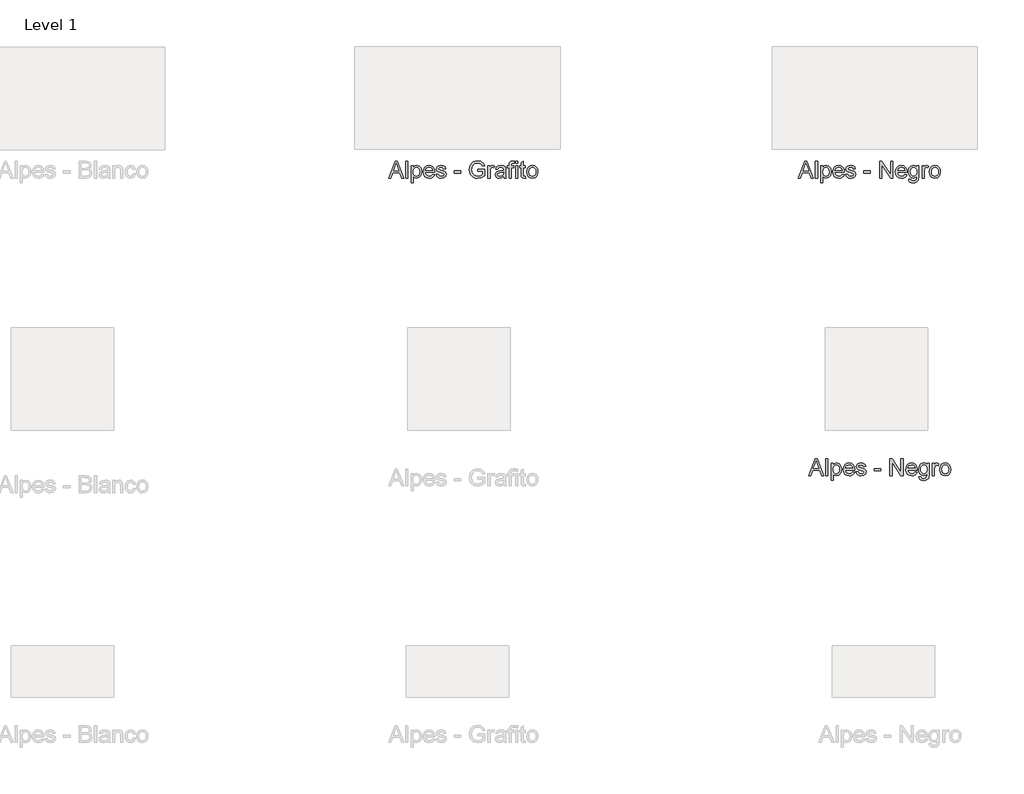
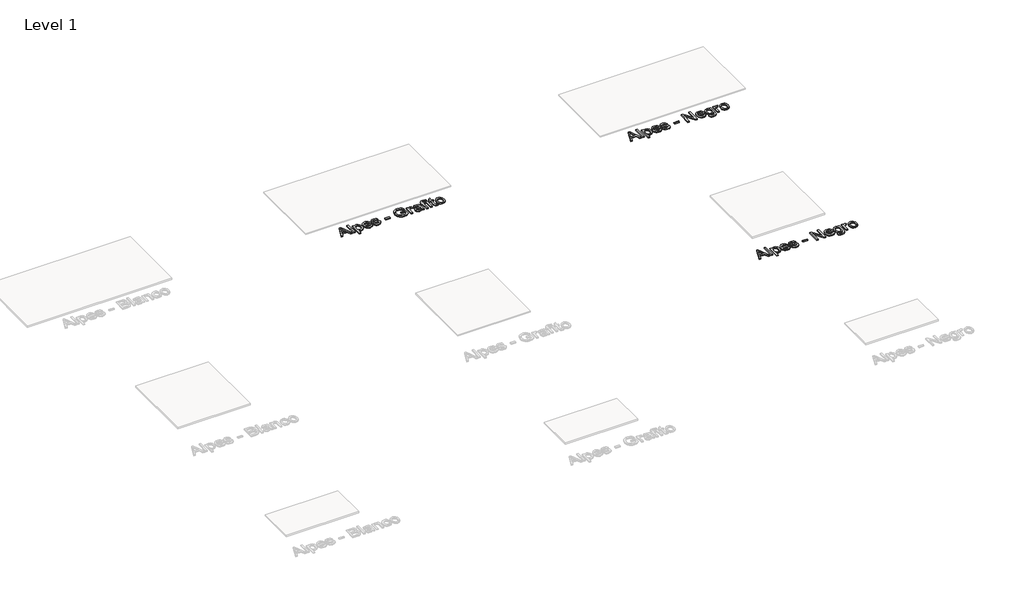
# One storey, part 3 of 3: 3 proxies.
"""IFC4 building model written with IfcOpenShell, lengths in millimetres."""

from ifc_helpers import new_model, si_unit, origin, origin_with_axes, place, context, project, spatial, polyline, outline, extrude, element, save

model = new_model("IFC4")

# Units and contexts
model_context = context("Model", 3, world=origin())
ifc_project = project(units=[si_unit("LENGTHUNIT", "METRE", prefix="MILLI")], contexts=[model_context])

# Site, building, storey
site = spatial("IfcSite", under=ifc_project)
building = spatial("IfcBuilding", under=site)
storey = spatial("IfcBuildingStorey", under=building, Name="Level 1", Elevation=0.0)

# Proxies
placement = place(None, origin())
element("IfcBuildingElementProxy", 1, Name="24\" Arial", ObjectType="24\" Arial", at=placement, inside=storey, context=model_context, shape_type="SweptSolid", body=[
    extrude(outline(polyline([(-2603.4306518, 3187.5589473), (-2564.1277672, 3286.0204858), (-2553.6469979, 3286.0204858), (-2514.3441133, 3187.5589473), (-2527.348921, 3187.5589473), (-2538.6229595, 3218.3281781), (-2579.1758441, 3218.3281781), (-2590.4258441, 3187.5589473), (-2603.4306518, 3187.5589473)]), holes=[polyline([(-2574.6566133, 3230.6358704), (-2543.1181518, 3230.6358704), (-2551.9883441, 3254.8426012), (-2558.8873826, 3273.7127935), (-2565.0171903, 3256.9579858), (-2574.6566133, 3230.6358704)])]), origin_with_axes(), (0.0, 0.0, 1.0), 8.0),
    extrude(outline(polyline([(-2502.7335364, 3187.5589473), (-2502.7335364, 3286.0204858), (-2490.4258441, 3286.0204858), (-2490.4258441, 3187.5589473), (-2502.7335364, 3187.5589473)])), origin_with_axes(), (0.0, 0.0, 1.0), 8.0),
    extrude(outline(polyline([(-2471.9643056, 3159.8666396), (-2471.9643056, 3259.8666396), (-2459.6566133, 3259.8666396), (-2459.6566133, 3247.7993319), (-2451.1469979, 3258.0036589), (-2439.6566133, 3261.4051012), (-2424.0556518, 3256.6454858), (-2413.8633441, 3243.2320242), (-2410.4258441, 3224.2656781), (-2414.3080556, 3204.3257742), (-2425.5820941, 3190.7440435), (-2441.1469979, 3186.0204858), (-2451.8561326, 3189.1815435), (-2459.6566133, 3197.1743319), (-2459.6566133, 3159.8666396), (-2471.9643056, 3159.8666396)]), holes=[polyline([(-2459.6566133, 3223.1358704), (-2458.3254835, 3212.1022165), (-2454.3320941, 3204.3858704), (-2448.4396662, 3199.8426012), (-2441.411421, 3198.3281781), (-2434.2689931, 3199.8966877), (-2428.2263249, 3204.6022165), (-2424.1067335, 3212.6010146), (-2422.7335364, 3224.0493319), (-2424.0736806, 3235.0228896), (-2428.0941133, 3242.8474089), (-2433.9775268, 3247.5349089), (-2440.9066133, 3249.0974089), (-2447.8627431, 3247.4357502), (-2453.9715172, 3242.4507742), (-2458.2353393, 3234.298731), (-2459.6566133, 3223.1358704)])]), origin_with_axes(), (0.0, 0.0, 1.0), 8.0),
    extrude(outline(polyline([(-2345.9546903, 3209.0974089), (-2333.8873826, 3207.5589473), (-2338.2353393, 3198.4663992), (-2345.1734403, 3191.6695242), (-2354.5454354, 3187.4327454), (-2366.1950749, 3186.0204858), (-2380.6361806, 3188.4573848), (-2391.7479595, 3195.7680819), (-2398.833296, 3207.4778175), (-2401.1950749, 3223.1118319), (-2398.8092576, 3239.2716877), (-2391.6518056, 3251.3570242), (-2380.6902672, 3258.8930819), (-2366.8921903, 3261.4051012), (-2353.5238008, 3258.8990915), (-2342.8417095, 3251.3810627), (-2335.8375028, 3239.3197646), (-2333.5027672, 3223.1839473), (-2333.5748826, 3219.8666396), (-2388.8873826, 3219.8666396), (-2386.7569739, 3210.6538992), (-2381.8080556, 3203.8810627), (-2365.9546903, 3198.3281781), (-2353.8873826, 3200.9002935), (-2345.9546903, 3209.0974089)]), holes=[polyline([(-2388.8873826, 3232.1743319), (-2345.8104595, 3232.1743319), (-2350.7383441, 3243.3281781), (-2357.9138249, 3247.6551012), (-2366.9402672, 3249.0974089), (-2382.0965172, 3244.4940435), (-2388.8873826, 3232.1743319)])]), origin_with_axes(), (0.0, 0.0, 1.0), 8.0),
    extrude(outline(polyline([(-2325.8104595, 3209.0974089), (-2313.5027672, 3210.6358704), (-2307.8056518, 3201.501255), (-2294.7527672, 3198.3281781), (-2282.2046903, 3201.2368319), (-2278.1181518, 3208.063755), (-2282.2287287, 3213.5926012), (-2294.8969979, 3217.1022165), (-2313.4306518, 3223.1238512), (-2321.5195941, 3230.1551012), (-2324.2719979, 3240.0829858), (-2322.0604595, 3249.2536589), (-2316.0268056, 3256.2608704), (-2308.2022864, 3259.9026973), (-2297.6133441, 3261.4051012), (-2282.6373826, 3258.9892358), (-2273.1181518, 3252.4507742), (-2268.8873826, 3241.4051012), (-2281.1950749, 3239.8666396), (-2285.8224787, 3246.657505), (-2296.6518056, 3249.0974089), (-2308.4306518, 3246.7656781), (-2311.9643056, 3241.3329858), (-2310.4979595, 3237.751255), (-2305.9066133, 3235.0349089), (-2295.3056518, 3232.4147165), (-2277.2407479, 3226.6214473), (-2268.8513249, 3220.0589473), (-2265.8104595, 3209.3618319), (-2269.380171, 3197.5829858), (-2279.6806518, 3189.0373127), (-2294.9210364, 3186.0204858), (-2307.3308922, 3187.4748127), (-2316.3873826, 3191.8377935), (-2322.4330556, 3199.0613512), (-2325.8104595, 3209.0974089)])), origin_with_axes(), (0.0, 0.0, 1.0), 8.0),
    extrude(outline(polyline([(-2219.6566133, 3216.7897165), (-2219.6566133, 3229.0974089), (-2181.1950749, 3229.0974089), (-2181.1950749, 3216.7897165), (-2219.6566133, 3216.7897165)])), origin_with_axes(), (0.0, 0.0, 1.0), 8.0),
    extrude(outline(polyline([(-2081.1950749, 3226.0204858), (-2081.1950749, 3238.3281781), (-2041.1950749, 3238.3281781), (-2041.1950749, 3201.5252935), (-2060.942671, 3189.9147165), (-2081.8200749, 3186.0204858), (-2095.6271662, 3187.5679617), (-2108.1061326, 3192.2103896), (-2118.4727191, 3199.7855098), (-2125.942671, 3210.1310627), (-2130.458897, 3222.5409185), (-2131.9643056, 3236.3089473), (-2125.9667095, 3263.0757742), (-2118.6560124, 3273.8960867), (-2108.7191133, 3281.5252935), (-2096.6157479, 3286.0505339), (-2082.8056518, 3287.5589473), (-2063.5508441, 3284.0613512), (-2050.0532479, 3274.3257742), (-2042.6133441, 3258.0397165), (-2053.9594979, 3254.8426012), (-2059.5724787, 3266.2248127), (-2069.1638249, 3272.7873127), (-2082.9979595, 3275.251255), (-2098.755171, 3272.595005), (-2109.4763249, 3265.6238512), (-2115.8104595, 3256.1406781), (-2119.6566133, 3236.813755), (-2115.0292095, 3215.3594281), (-2101.567671, 3202.5228896), (-2082.8056518, 3198.3281781), (-2065.9667095, 3201.4892358), (-2053.5027672, 3208.2320242), (-2053.5027672, 3226.0204858), (-2081.1950749, 3226.0204858)])), origin_with_axes(), (0.0, 0.0, 1.0), 8.0),
    extrude(outline(polyline([(-2022.7335364, 3187.5589473), (-2022.7335364, 3259.8666396), (-2011.9643056, 3259.8666396), (-2011.9643056, 3249.1695242), (-2004.3200749, 3259.0252935), (-1996.6277672, 3261.4051012), (-1984.2719979, 3257.6070242), (-1988.3825749, 3246.5733704), (-1997.036421, 3249.0974089), (-2003.9955556, 3246.6695242), (-2008.4306518, 3239.938755), (-2010.4258441, 3225.563755), (-2010.4258441, 3187.5589473), (-2022.7335364, 3187.5589473)])), origin_with_axes(), (0.0, 0.0, 1.0), 8.0),
    extrude(outline(polyline([(-1930.4258441, 3196.7897165), (-1942.3609403, 3188.4483704), (-1955.5460364, 3186.0204858), (-1965.8314931, 3187.4808223), (-1973.4186326, 3191.8618319), (-1978.0971181, 3198.5144762), (-1979.6566133, 3206.7897165), (-1977.3008441, 3216.5252935), (-1971.1109403, 3223.5926012), (-1962.4931518, 3227.6310627), (-1951.8441133, 3229.4820242), (-1930.4979595, 3233.7127935), (-1930.4258441, 3236.4531781), (-1933.8152672, 3245.5397165), (-1947.4210364, 3249.0974089), (-1959.8729595, 3246.7296204), (-1965.8104595, 3238.3281781), (-1978.1181518, 3239.8666396), (-1972.7936326, 3251.8858704), (-1962.0724787, 3258.9291396), (-1945.8344979, 3261.4051012), (-1930.9186326, 3259.2176012), (-1922.4931518, 3253.7248127), (-1918.7191133, 3245.3714473), (-1918.1181518, 3234.6022165), (-1918.1181518, 3219.2897165), (-1917.4931518, 3197.907505), (-1915.0412287, 3187.5589473), (-1927.348921, 3187.5589473), (-1930.4258441, 3196.7897165)]), holes=[polyline([(-1930.4258441, 3221.4051012), (-1950.2816133, 3217.6310627), (-1960.8705556, 3215.6358704), (-1965.6662287, 3212.3906781), (-1967.348921, 3207.6551012), (-1963.6830556, 3200.9964473), (-1952.9258441, 3198.3281781), (-1940.473921, 3201.2728896), (-1932.4450749, 3208.4002935), (-1930.4979595, 3217.9195242), (-1930.4258441, 3221.4051012)])]), origin_with_axes(), (0.0, 0.0, 1.0), 8.0),
    extrude(outline(polyline([(-1898.1181518, 3187.5589473), (-1898.1181518, 3247.5589473), (-1908.8873826, 3247.5589473), (-1908.8873826, 3259.8666396), (-1898.1181518, 3259.8666396), (-1898.1181518, 3267.1502935), (-1896.8200749, 3277.4147165), (-1890.5219979, 3284.7464473), (-1878.1181518, 3287.5589473), (-1866.8921903, 3286.2127935), (-1868.6950749, 3274.6743319), (-1875.786421, 3275.251255), (-1883.5388249, 3273.2079858), (-1885.8104595, 3265.5877935), (-1885.8104595, 3259.8666396), (-1871.9643056, 3259.8666396), (-1871.9643056, 3247.5589473), (-1885.8104595, 3247.5589473), (-1885.8104595, 3187.5589473), (-1898.1181518, 3187.5589473)])), origin_with_axes(), (0.0, 0.0, 1.0), 8.0),
    extrude(outline(polyline([(-1861.1950749, 3273.7127935), (-1861.1950749, 3286.0204858), (-1848.8873826, 3286.0204858), (-1848.8873826, 3273.7127935), (-1861.1950749, 3273.7127935)])), origin_with_axes(), (0.0, 0.0, 1.0), 8.0),
    extrude(outline(polyline([(-1861.1950749, 3187.5589473), (-1861.1950749, 3259.8666396), (-1848.8873826, 3259.8666396), (-1848.8873826, 3187.5589473), (-1861.1950749, 3187.5589473)])), origin_with_axes(), (0.0, 0.0, 1.0), 8.0),
    extrude(outline(polyline([(-1804.2719979, 3197.8233704), (-1802.7335364, 3187.1983704), (-1811.9402672, 3186.0204858), (-1822.2527672, 3188.063755), (-1827.3969979, 3193.4243319), (-1828.8873826, 3207.3906781), (-1828.8873826, 3247.5589473), (-1838.1181518, 3247.5589473), (-1838.1181518, 3259.8666396), (-1828.8873826, 3259.8666396), (-1828.8873826, 3277.438755), (-1816.5796903, 3284.6743319), (-1816.5796903, 3259.8666396), (-1804.2719979, 3259.8666396), (-1804.2719979, 3247.5589473), (-1816.5796903, 3247.5589473), (-1816.5796903, 3207.751255), (-1815.9306518, 3201.4051012), (-1813.8272864, 3199.157505), (-1809.6325749, 3198.3281781), (-1804.2719979, 3197.8233704)])), origin_with_axes(), (0.0, 0.0, 1.0), 8.0),
    extrude(outline(polyline([(-1795.0412287, 3223.7127935), (-1792.3789691, 3241.1466877), (-1784.3921903, 3253.4002935), (-1774.5244018, 3259.4038992), (-1762.7094979, 3261.4051012), (-1749.7798104, 3258.9682021), (-1739.4522864, 3251.657505), (-1732.6824547, 3240.0499329), (-1730.4258441, 3224.7224089), (-1734.4162287, 3202.8233704), (-1746.0388249, 3190.4315435), (-1762.7094979, 3186.0204858), (-1775.7954354, 3188.4483704), (-1786.1109403, 3195.7320242), (-1792.8086566, 3207.5829858), (-1795.0412287, 3223.7127935)]), holes=[polyline([(-1782.7335364, 3223.7368319), (-1781.3092576, 3212.5980098), (-1777.036421, 3204.6623127), (-1770.6061326, 3199.9117117), (-1762.7094979, 3198.3281781), (-1754.848921, 3199.9207262), (-1748.4306518, 3204.6983704), (-1744.1578153, 3212.7392358), (-1742.7335364, 3224.1214473), (-1744.1668297, 3234.9357502), (-1748.4667095, 3242.7632742), (-1754.8939931, 3247.5138752), (-1762.7094979, 3249.0974089), (-1770.6061326, 3247.5198848), (-1777.036421, 3242.7873127), (-1781.3092576, 3234.8696444), (-1782.7335364, 3223.7368319)])]), origin_with_axes(), (0.0, 0.0, 1.0), 8.0),
])
element("IfcBuildingElementProxy", 2, Name="24\" Arial", ObjectType="24\" Arial", at=placement, inside=storey, context=model_context, shape_type="SweptSolid", body=[
    extrude(outline(polyline([(-208.4306518, 3187.5589473), (-169.1277672, 3286.0204858), (-158.6469979, 3286.0204858), (-119.3441133, 3187.5589473), (-132.348921, 3187.5589473), (-143.6229595, 3218.3281781), (-184.1758441, 3218.3281781), (-195.4258441, 3187.5589473), (-208.4306518, 3187.5589473)]), holes=[polyline([(-179.6566133, 3230.6358704), (-148.1181518, 3230.6358704), (-156.9883441, 3254.8426012), (-163.8873826, 3273.7127935), (-170.0171903, 3256.9579858), (-179.6566133, 3230.6358704)])]), origin_with_axes(), (0.0, 0.0, 1.0), 8.0),
    extrude(outline(polyline([(-107.7335364, 3187.5589473), (-107.7335364, 3286.0204858), (-95.4258441, 3286.0204858), (-95.4258441, 3187.5589473), (-107.7335364, 3187.5589473)])), origin_with_axes(), (0.0, 0.0, 1.0), 8.0),
    extrude(outline(polyline([(-76.9643056, 3159.8666396), (-76.9643056, 3259.8666396), (-64.6566133, 3259.8666396), (-64.6566133, 3247.7993319), (-56.1469979, 3258.0036589), (-44.6566133, 3261.4051012), (-29.0556518, 3256.6454858), (-18.8633441, 3243.2320242), (-15.4258441, 3224.2656781), (-19.3080556, 3204.3257742), (-30.5820941, 3190.7440435), (-46.1469979, 3186.0204858), (-56.8561326, 3189.1815435), (-64.6566133, 3197.1743319), (-64.6566133, 3159.8666396), (-76.9643056, 3159.8666396)]), holes=[polyline([(-64.6566133, 3223.1358704), (-63.3254835, 3212.1022165), (-59.3320941, 3204.3858704), (-53.4396662, 3199.8426012), (-46.411421, 3198.3281781), (-39.2689931, 3199.8966877), (-33.2263249, 3204.6022165), (-29.1067335, 3212.6010146), (-27.7335364, 3224.0493319), (-29.0736806, 3235.0228896), (-33.0941133, 3242.8474089), (-38.9775268, 3247.5349089), (-45.9066133, 3249.0974089), (-52.8627431, 3247.4357502), (-58.9715172, 3242.4507742), (-63.2353393, 3234.298731), (-64.6566133, 3223.1358704)])]), origin_with_axes(), (0.0, 0.0, 1.0), 8.0),
    extrude(outline(polyline([(49.0453097, 3209.0974089), (61.1126174, 3207.5589473), (56.7646607, 3198.4663992), (49.8265597, 3191.6695242), (40.4545646, 3187.4327454), (28.8049251, 3186.0204858), (14.3638194, 3188.4573848), (3.2520405, 3195.7680819), (-3.833296, 3207.4778175), (-6.1950749, 3223.1118319), (-3.8092576, 3239.2716877), (3.3481944, 3251.3570242), (14.3097328, 3258.8930819), (28.1078097, 3261.4051012), (41.4761992, 3258.8990915), (52.1582905, 3251.3810627), (59.1624972, 3239.3197646), (61.4972328, 3223.1839473), (61.4251174, 3219.8666396), (6.1126174, 3219.8666396), (8.2430261, 3210.6538992), (13.1919444, 3203.8810627), (29.0453097, 3198.3281781), (41.1126174, 3200.9002935), (49.0453097, 3209.0974089)]), holes=[polyline([(6.1126174, 3232.1743319), (49.1895405, 3232.1743319), (44.2616559, 3243.3281781), (37.0861751, 3247.6551012), (28.0597328, 3249.0974089), (12.9034828, 3244.4940435), (6.1126174, 3232.1743319)])]), origin_with_axes(), (0.0, 0.0, 1.0), 8.0),
    extrude(outline(polyline([(69.1895405, 3209.0974089), (81.4972328, 3210.6358704), (87.1943482, 3201.501255), (100.2472328, 3198.3281781), (112.7953097, 3201.2368319), (116.8818482, 3208.063755), (112.7712713, 3213.5926012), (100.1030021, 3217.1022165), (81.5693482, 3223.1238512), (73.4804059, 3230.1551012), (70.7280021, 3240.0829858), (72.9395405, 3249.2536589), (78.9731944, 3256.2608704), (86.7977136, 3259.9026973), (97.3866559, 3261.4051012), (112.3626174, 3258.9892358), (121.8818482, 3252.4507742), (126.1126174, 3241.4051012), (113.8049251, 3239.8666396), (109.1775213, 3246.657505), (98.3481944, 3249.0974089), (86.5693482, 3246.7656781), (83.0356944, 3241.3329858), (84.5020405, 3237.751255), (89.0933867, 3235.0349089), (99.6943482, 3232.4147165), (117.7592521, 3226.6214473), (126.1486751, 3220.0589473), (129.1895405, 3209.3618319), (125.619829, 3197.5829858), (115.3193482, 3189.0373127), (100.0789636, 3186.0204858), (87.6691078, 3187.4748127), (78.6126174, 3191.8377935), (72.5669444, 3199.0613512), (69.1895405, 3209.0974089)])), origin_with_axes(), (0.0, 0.0, 1.0), 8.0),
    extrude(outline(polyline([(175.3433867, 3216.7897165), (175.3433867, 3229.0974089), (213.8049251, 3229.0974089), (213.8049251, 3216.7897165), (175.3433867, 3216.7897165)])), origin_with_axes(), (0.0, 0.0, 1.0), 8.0),
    extrude(outline(polyline([(267.651079, 3187.5589473), (267.651079, 3286.0204858), (280.8241559, 3286.0204858), (332.2664636, 3208.0156781), (332.2664636, 3286.0204858), (344.5741559, 3286.0204858), (344.5741559, 3187.5589473), (331.401079, 3187.5589473), (279.9587713, 3265.5877935), (279.9587713, 3187.5589473), (267.651079, 3187.5589473)])), origin_with_axes(), (0.0, 0.0, 1.0), 8.0),
    extrude(outline(polyline([(415.1991559, 3209.0974089), (427.2664636, 3207.5589473), (422.9185069, 3198.4663992), (415.9804059, 3191.6695242), (406.6084107, 3187.4327454), (394.9587713, 3186.0204858), (380.5176655, 3188.4573848), (369.4058867, 3195.7680819), (362.3205501, 3207.4778175), (359.9587713, 3223.1118319), (362.3445886, 3239.2716877), (369.5020405, 3251.3570242), (380.463579, 3258.8930819), (394.2616559, 3261.4051012), (407.6300453, 3258.8990915), (418.3121367, 3251.3810627), (425.3163434, 3239.3197646), (427.651079, 3223.1839473), (427.5789636, 3219.8666396), (372.2664636, 3219.8666396), (374.3968722, 3210.6538992), (379.3457905, 3203.8810627), (395.1991559, 3198.3281781), (407.2664636, 3200.9002935), (415.1991559, 3209.0974089)]), holes=[polyline([(372.2664636, 3232.1743319), (415.3433867, 3232.1743319), (410.4155021, 3243.3281781), (403.2400213, 3247.6551012), (394.213579, 3249.0974089), (379.057329, 3244.4940435), (372.2664636, 3232.1743319)])]), origin_with_axes(), (0.0, 0.0, 1.0), 8.0),
    extrude(outline(polyline([(436.8818482, 3181.4051012), (449.1895405, 3179.8666396), (453.1799251, 3173.376255), (465.1270405, 3170.6358704), (477.7231944, 3173.7368319), (483.7328097, 3182.438755), (484.5741559, 3196.7897165), (475.9082905, 3189.8666396), (465.3433867, 3187.5589473), (452.6540838, 3190.2452454), (443.1919444, 3198.3041396), (437.3055261, 3210.1190435), (435.3433867, 3224.0733704), (438.8650213, 3243.1478896), (449.057329, 3256.6454858), (464.7424251, 3261.4051012), (475.7219924, 3258.7127935), (484.5741559, 3250.6358704), (484.5741559, 3259.8666396), (496.8818482, 3259.8666396), (496.8818482, 3197.438755), (493.5164636, 3173.532505), (482.8554059, 3162.4147165), (464.8866559, 3158.3281781), (453.4353338, 3159.767481), (444.4179059, 3164.0853896), (438.6336511, 3171.2939233), (436.8818482, 3181.4051012)]), holes=[polyline([(447.651079, 3224.9147165), (448.9641799, 3213.625654), (452.9034828, 3205.8642358), (458.8259588, 3201.3660387), (466.088579, 3199.8666396), (473.2971126, 3201.3570242), (479.2496367, 3205.8281781), (483.2430261, 3213.4904377), (484.5741559, 3224.5541396), (483.2039636, 3235.2242117), (479.0933867, 3242.907505), (473.0537232, 3247.5499329), (465.8962713, 3249.0974089), (458.8680261, 3247.5739714), (452.9755982, 3243.0036589), (448.9822088, 3235.4345483), (447.651079, 3224.9147165)])]), origin_with_axes(), (0.0, 0.0, 1.0), 8.0),
    extrude(outline(polyline([(515.3433867, 3187.5589473), (515.3433867, 3259.8666396), (526.1126174, 3259.8666396), (526.1126174, 3249.1695242), (533.7568482, 3259.0252935), (541.4491559, 3261.4051012), (553.8049251, 3257.6070242), (549.6943482, 3246.5733704), (541.0405021, 3249.0974089), (534.0813674, 3246.6695242), (529.6462713, 3239.938755), (527.651079, 3225.563755), (527.651079, 3187.5589473), (515.3433867, 3187.5589473)])), origin_with_axes(), (0.0, 0.0, 1.0), 8.0),
    extrude(outline(polyline([(558.4203097, 3223.7127935), (561.0825694, 3241.1466877), (569.0693482, 3253.4002935), (578.9371367, 3259.4038992), (590.7520405, 3261.4051012), (603.681728, 3258.9682021), (614.0092521, 3251.657505), (620.7790838, 3240.0499329), (623.0356944, 3224.7224089), (619.0453097, 3202.8233704), (607.4227136, 3190.4315435), (590.7520405, 3186.0204858), (577.666103, 3188.4483704), (567.3505982, 3195.7320242), (560.6528819, 3207.5829858), (558.4203097, 3223.7127935)]), holes=[polyline([(570.7280021, 3223.7368319), (572.1522809, 3212.5980098), (576.4251174, 3204.6623127), (582.8554059, 3199.9117117), (590.7520405, 3198.3281781), (598.6126174, 3199.9207262), (605.0308867, 3204.6983704), (609.3037232, 3212.7392358), (610.7280021, 3224.1214473), (609.2947088, 3234.9357502), (604.994829, 3242.7632742), (598.5675453, 3247.5138752), (590.7520405, 3249.0974089), (582.8554059, 3247.5198848), (576.4251174, 3242.7873127), (572.1522809, 3234.8696444), (570.7280021, 3223.7368319)])]), origin_with_axes(), (0.0, 0.0, 1.0), 8.0),
])
element("IfcBuildingElementProxy", 3, Name="24\" Arial", ObjectType="24\" Arial", at=placement, inside=storey, context=model_context, shape_type="SweptSolid", body=[
    extrude(outline(polyline([(-148.4306518, 1447.5589473), (-109.1277672, 1546.0204858), (-98.6469979, 1546.0204858), (-59.3441133, 1447.5589473), (-72.348921, 1447.5589473), (-83.6229595, 1478.3281781), (-124.1758441, 1478.3281781), (-135.4258441, 1447.5589473), (-148.4306518, 1447.5589473)]), holes=[polyline([(-119.6566133, 1490.6358704), (-88.1181518, 1490.6358704), (-96.9883441, 1514.8426012), (-103.8873826, 1533.7127935), (-110.0171903, 1516.9579858), (-119.6566133, 1490.6358704)])]), origin_with_axes(), (0.0, 0.0, 1.0), 8.0),
    extrude(outline(polyline([(-47.7335364, 1447.5589473), (-47.7335364, 1546.0204858), (-35.4258441, 1546.0204858), (-35.4258441, 1447.5589473), (-47.7335364, 1447.5589473)])), origin_with_axes(), (0.0, 0.0, 1.0), 8.0),
    extrude(outline(polyline([(-16.9643056, 1419.8666396), (-16.9643056, 1519.8666396), (-4.6566133, 1519.8666396), (-4.6566133, 1507.7993319), (3.8530021, 1518.0036589), (15.3433867, 1521.4051012), (30.9443482, 1516.6454858), (41.1366559, 1503.2320242), (44.5741559, 1484.2656781), (40.6919444, 1464.3257742), (29.4179059, 1450.7440435), (13.8530021, 1446.0204858), (3.1438674, 1449.1815435), (-4.6566133, 1457.1743319), (-4.6566133, 1419.8666396), (-16.9643056, 1419.8666396)]), holes=[polyline([(-4.6566133, 1483.1358704), (-3.3254835, 1472.1022165), (0.6679059, 1464.3858704), (6.5603338, 1459.8426012), (13.588579, 1458.3281781), (20.7310069, 1459.8966877), (26.7736751, 1464.6022165), (30.8932665, 1472.6010146), (32.2664636, 1484.0493319), (30.9263194, 1495.0228896), (26.9058867, 1502.8474089), (21.0224732, 1507.5349089), (14.0933867, 1509.0974089), (7.1372569, 1507.4357502), (1.0284828, 1502.4507742), (-3.2353393, 1494.298731), (-4.6566133, 1483.1358704)])]), origin_with_axes(), (0.0, 0.0, 1.0), 8.0),
    extrude(outline(polyline([(109.0453097, 1469.0974089), (121.1126174, 1467.5589473), (116.7646607, 1458.4663992), (109.8265597, 1451.6695242), (100.4545646, 1447.4327454), (88.8049251, 1446.0204858), (74.3638194, 1448.4573848), (63.2520405, 1455.7680819), (56.166704, 1467.4778175), (53.8049251, 1483.1118319), (56.1907424, 1499.2716877), (63.3481944, 1511.3570242), (74.3097328, 1518.8930819), (88.1078097, 1521.4051012), (101.4761992, 1518.8990915), (112.1582905, 1511.3810627), (119.1624972, 1499.3197646), (121.4972328, 1483.1839473), (121.4251174, 1479.8666396), (66.1126174, 1479.8666396), (68.2430261, 1470.6538992), (73.1919444, 1463.8810627), (89.0453097, 1458.3281781), (101.1126174, 1460.9002935), (109.0453097, 1469.0974089)]), holes=[polyline([(66.1126174, 1492.1743319), (109.1895405, 1492.1743319), (104.2616559, 1503.3281781), (97.0861751, 1507.6551012), (88.0597328, 1509.0974089), (72.9034828, 1504.4940435), (66.1126174, 1492.1743319)])]), origin_with_axes(), (0.0, 0.0, 1.0), 8.0),
    extrude(outline(polyline([(129.1895405, 1469.0974089), (141.4972328, 1470.6358704), (147.1943482, 1461.501255), (160.2472328, 1458.3281781), (172.7953097, 1461.2368319), (176.8818482, 1468.063755), (172.7712713, 1473.5926012), (160.1030021, 1477.1022165), (141.5693482, 1483.1238512), (133.4804059, 1490.1551012), (130.7280021, 1500.0829858), (132.9395405, 1509.2536589), (138.9731944, 1516.2608704), (146.7977136, 1519.9026973), (157.3866559, 1521.4051012), (172.3626174, 1518.9892358), (181.8818482, 1512.4507742), (186.1126174, 1501.4051012), (173.8049251, 1499.8666396), (169.1775213, 1506.657505), (158.3481944, 1509.0974089), (146.5693482, 1506.7656781), (143.0356944, 1501.3329858), (144.5020405, 1497.751255), (149.0933867, 1495.0349089), (159.6943482, 1492.4147165), (177.7592521, 1486.6214473), (186.1486751, 1480.0589473), (189.1895405, 1469.3618319), (185.619829, 1457.5829858), (175.3193482, 1449.0373127), (160.0789636, 1446.0204858), (147.6691078, 1447.4748127), (138.6126174, 1451.8377935), (132.5669444, 1459.0613512), (129.1895405, 1469.0974089)])), origin_with_axes(), (0.0, 0.0, 1.0), 8.0),
    extrude(outline(polyline([(235.3433867, 1476.7897165), (235.3433867, 1489.0974089), (273.8049251, 1489.0974089), (273.8049251, 1476.7897165), (235.3433867, 1476.7897165)])), origin_with_axes(), (0.0, 0.0, 1.0), 8.0),
    extrude(outline(polyline([(327.651079, 1447.5589473), (327.651079, 1546.0204858), (340.8241559, 1546.0204858), (392.2664636, 1468.0156781), (392.2664636, 1546.0204858), (404.5741559, 1546.0204858), (404.5741559, 1447.5589473), (391.401079, 1447.5589473), (339.9587713, 1525.5877935), (339.9587713, 1447.5589473), (327.651079, 1447.5589473)])), origin_with_axes(), (0.0, 0.0, 1.0), 8.0),
    extrude(outline(polyline([(475.1991559, 1469.0974089), (487.2664636, 1467.5589473), (482.9185069, 1458.4663992), (475.9804059, 1451.6695242), (466.6084107, 1447.4327454), (454.9587713, 1446.0204858), (440.5176655, 1448.4573848), (429.4058867, 1455.7680819), (422.3205501, 1467.4778175), (419.9587713, 1483.1118319), (422.3445886, 1499.2716877), (429.5020405, 1511.3570242), (440.463579, 1518.8930819), (454.2616559, 1521.4051012), (467.6300453, 1518.8990915), (478.3121367, 1511.3810627), (485.3163434, 1499.3197646), (487.651079, 1483.1839473), (487.5789636, 1479.8666396), (432.2664636, 1479.8666396), (434.3968722, 1470.6538992), (439.3457905, 1463.8810627), (455.1991559, 1458.3281781), (467.2664636, 1460.9002935), (475.1991559, 1469.0974089)]), holes=[polyline([(432.2664636, 1492.1743319), (475.3433867, 1492.1743319), (470.4155021, 1503.3281781), (463.2400213, 1507.6551012), (454.213579, 1509.0974089), (439.057329, 1504.4940435), (432.2664636, 1492.1743319)])]), origin_with_axes(), (0.0, 0.0, 1.0), 8.0),
    extrude(outline(polyline([(496.8818482, 1441.4051012), (509.1895405, 1439.8666396), (513.1799251, 1433.376255), (525.1270405, 1430.6358704), (537.7231944, 1433.7368319), (543.7328097, 1442.438755), (544.5741559, 1456.7897165), (535.9082905, 1449.8666396), (525.3433867, 1447.5589473), (512.6540838, 1450.2452454), (503.1919444, 1458.3041396), (497.3055261, 1470.1190435), (495.3433867, 1484.0733704), (498.8650213, 1503.1478896), (509.057329, 1516.6454858), (524.7424251, 1521.4051012), (535.7219924, 1518.7127935), (544.5741559, 1510.6358704), (544.5741559, 1519.8666396), (556.8818482, 1519.8666396), (556.8818482, 1457.438755), (553.5164636, 1433.532505), (542.8554059, 1422.4147165), (524.8866559, 1418.3281781), (513.4353338, 1419.767481), (504.4179059, 1424.0853896), (498.6336511, 1431.2939233), (496.8818482, 1441.4051012)]), holes=[polyline([(507.651079, 1484.9147165), (508.9641799, 1473.625654), (512.9034828, 1465.8642358), (518.8259588, 1461.3660387), (526.088579, 1459.8666396), (533.2971126, 1461.3570242), (539.2496367, 1465.8281781), (543.2430261, 1473.4904377), (544.5741559, 1484.5541396), (543.2039636, 1495.2242117), (539.0933867, 1502.907505), (533.0537232, 1507.5499329), (525.8962713, 1509.0974089), (518.8680261, 1507.5739714), (512.9755982, 1503.0036589), (508.9822088, 1495.4345483), (507.651079, 1484.9147165)])]), origin_with_axes(), (0.0, 0.0, 1.0), 8.0),
    extrude(outline(polyline([(575.3433867, 1447.5589473), (575.3433867, 1519.8666396), (586.1126174, 1519.8666396), (586.1126174, 1509.1695242), (593.7568482, 1519.0252935), (601.4491559, 1521.4051012), (613.8049251, 1517.6070242), (609.6943482, 1506.5733704), (601.0405021, 1509.0974089), (594.0813674, 1506.6695242), (589.6462713, 1499.938755), (587.651079, 1485.563755), (587.651079, 1447.5589473), (575.3433867, 1447.5589473)])), origin_with_axes(), (0.0, 0.0, 1.0), 8.0),
    extrude(outline(polyline([(618.4203097, 1483.7127935), (621.0825694, 1501.1466877), (629.0693482, 1513.4002935), (638.9371367, 1519.4038992), (650.7520405, 1521.4051012), (663.681728, 1518.9682021), (674.0092521, 1511.657505), (680.7790838, 1500.0499329), (683.0356944, 1484.7224089), (679.0453097, 1462.8233704), (667.4227136, 1450.4315435), (650.7520405, 1446.0204858), (637.666103, 1448.4483704), (627.3505982, 1455.7320242), (620.6528819, 1467.5829858), (618.4203097, 1483.7127935)]), holes=[polyline([(630.7280021, 1483.7368319), (632.1522809, 1472.5980098), (636.4251174, 1464.6623127), (642.8554059, 1459.9117117), (650.7520405, 1458.3281781), (658.6126174, 1459.9207262), (665.0308867, 1464.6983704), (669.3037232, 1472.7392358), (670.7280021, 1484.1214473), (669.2947088, 1494.9357502), (664.994829, 1502.7632742), (658.5675453, 1507.5138752), (650.7520405, 1509.0974089), (642.8554059, 1507.5198848), (636.4251174, 1502.7873127), (632.1522809, 1494.8696444), (630.7280021, 1483.7368319)])]), origin_with_axes(), (0.0, 0.0, 1.0), 8.0),
])

save(model, "model.ifc")
